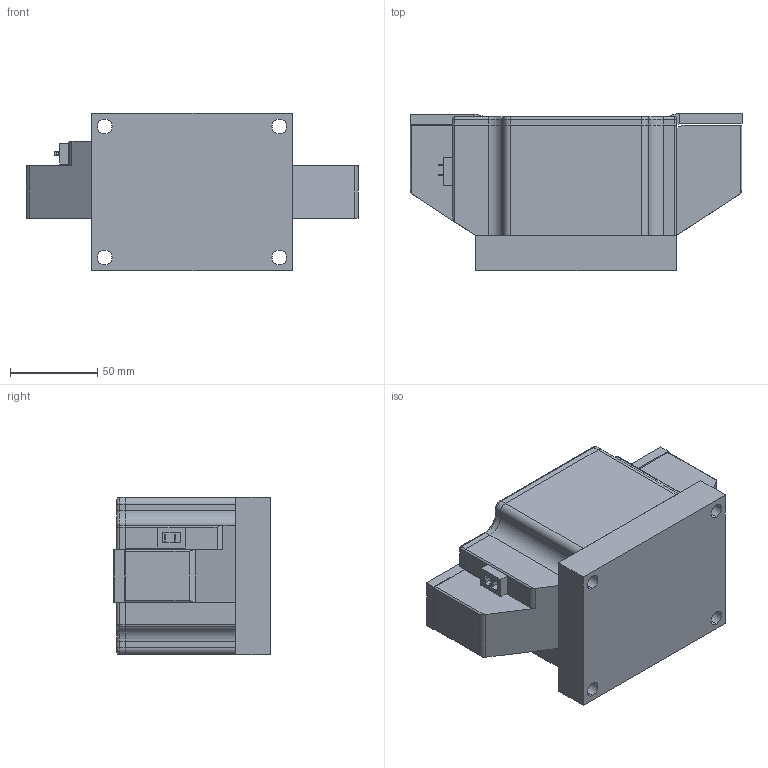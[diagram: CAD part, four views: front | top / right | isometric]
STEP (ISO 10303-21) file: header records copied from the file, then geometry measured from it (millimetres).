
FILE_DESCRIPTION (( 'STEP AP214' ), '1' );
FILE_NAME ('MTD8-T.STEP', '2021-02-08T06:34:33', ( '' ), ( '' ), 'SwSTEP 2.0', 'SolidWorks 2018', '' );
FILE_SCHEMA (( 'AUTOMOTIVE_DESIGN' ));
Length unit declared in the file: millimetre
Products named in the file (1): MTD8-T
Bounding box: 190 x 89.86 x 90 mm (x, y, z)
Volume: 457442.3 mm3; surface area: 170587.6 mm2
Topology: 10 solids, 10 shells, 588 faces, 1592 edges, 1030 vertices
Faces by surface type: plane 362, cylinder 188, cone 26, torus 8, bspline 4
Entity records: 25438 total; most frequent: CARTESIAN_POINT 3688, ORIENTED_EDGE 3176, DIRECTION 3137, EDGE_CURVE 1588, LINE 1135, VECTOR 1135, VERTEX_POINT 1030, AXIS2_PLACEMENT_3D 1001
